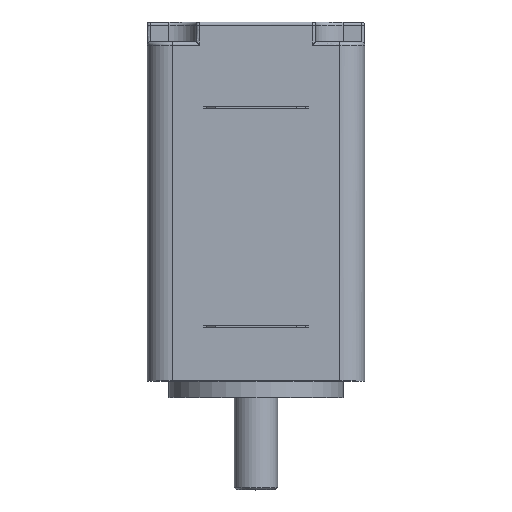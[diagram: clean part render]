
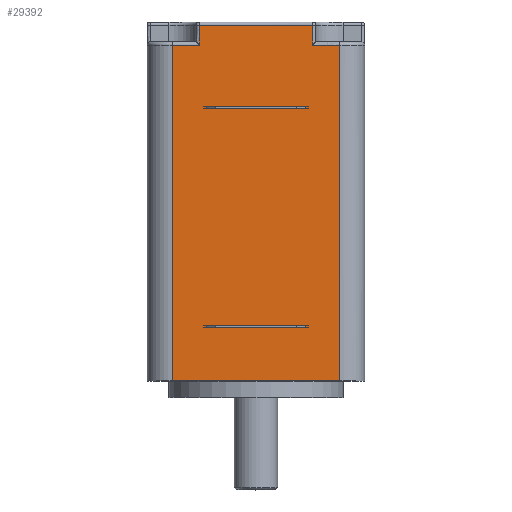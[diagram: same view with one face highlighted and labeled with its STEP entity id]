
A CAD part, top view. The second image highlights one B-rep face of the part: STEP entity #29392.
In plain terms, the highlighted planar face has unit normal (0, 0, 1).
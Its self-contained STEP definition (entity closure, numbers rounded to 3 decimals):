
#7312=CARTESIAN_POINT('',(4.583,0.675,10.));
#7313=VERTEX_POINT('',#7312);
#7321=CARTESIAN_POINT('',(-4.583,0.675,10.));
#7322=VERTEX_POINT('',#7321);
#7323=CARTESIAN_POINT('',(4.583,0.675,10.));
#7324=DIRECTION('',(-1.,0.,0.));
#7325=VECTOR('',#7324,9.165);
#7326=LINE('',#7323,#7325);
#7327=EDGE_CURVE('',#7313,#7322,#7326,.T.);
#8036=CARTESIAN_POINT('',(4.583,0.49,10.));
#8037=VERTEX_POINT('',#8036);
#8038=CARTESIAN_POINT('',(4.583,0.49,10.));
#8039=DIRECTION('',(0.,1.,0.));
#8040=VECTOR('',#8039,0.185);
#8041=LINE('',#8038,#8040);
#8042=EDGE_CURVE('',#8037,#7313,#8041,.T.);
#8085=CARTESIAN_POINT('',(-4.583,0.49,10.));
#8086=VERTEX_POINT('',#8085);
#8120=CARTESIAN_POINT('',(-4.583,0.675,10.));
#8121=DIRECTION('',(0.,-1.,0.));
#8122=VECTOR('',#8121,0.185);
#8123=LINE('',#8120,#8122);
#8124=EDGE_CURVE('',#7322,#8086,#8123,.T.);
#8476=CARTESIAN_POINT('',(-4.583,0.49,10.));
#8477=DIRECTION('',(1.,0.,0.));
#8478=VECTOR('',#8477,9.165);
#8479=LINE('',#8476,#8478);
#8480=EDGE_CURVE('',#8086,#8037,#8479,.T.);
#8911=CARTESIAN_POINT('',(7.7,-4.45,10.));
#8912=VERTEX_POINT('',#8911);
#8920=CARTESIAN_POINT('',(-7.7,-4.45,10.));
#8921=VERTEX_POINT('',#8920);
#8922=CARTESIAN_POINT('',(7.7,-4.45,10.));
#8923=DIRECTION('',(-1.,0.,0.));
#8924=VECTOR('',#8923,15.4);
#8925=LINE('',#8922,#8924);
#8926=EDGE_CURVE('',#8912,#8921,#8925,.T.);
#14715=CARTESIAN_POINT('',(7.7,26.42,10.));
#14716=VERTEX_POINT('',#14715);
#14723=CARTESIAN_POINT('',(7.7,26.42,10.));
#14724=DIRECTION('',(0.,-1.,0.));
#14725=VECTOR('',#14724,30.87);
#14726=LINE('',#14723,#14725);
#14727=EDGE_CURVE('',#14716,#8912,#14726,.T.);
#14738=CARTESIAN_POINT('',(-7.7,26.42,10.));
#14739=VERTEX_POINT('',#14738);
#14740=CARTESIAN_POINT('',(-7.7,-4.45,10.));
#14741=DIRECTION('',(0.,1.,0.));
#14742=VECTOR('',#14741,30.87);
#14743=LINE('',#14740,#14742);
#14744=EDGE_CURVE('',#8921,#14739,#14743,.T.);
#24664=CARTESIAN_POINT('',(4.583,20.81,10.));
#24665=VERTEX_POINT('',#24664);
#24673=CARTESIAN_POINT('',(-4.583,20.81,10.));
#24674=VERTEX_POINT('',#24673);
#24675=CARTESIAN_POINT('',(4.583,20.81,10.));
#24676=DIRECTION('',(-1.,0.,0.));
#24677=VECTOR('',#24676,9.165);
#24678=LINE('',#24675,#24677);
#24679=EDGE_CURVE('',#24665,#24674,#24678,.T.);
#24925=CARTESIAN_POINT('',(-4.583,20.625,10.));
#24926=VERTEX_POINT('',#24925);
#24934=CARTESIAN_POINT('',(4.583,20.625,10.));
#24935=VERTEX_POINT('',#24934);
#24936=CARTESIAN_POINT('',(-4.583,20.625,10.));
#24937=DIRECTION('',(1.,0.,0.));
#24938=VECTOR('',#24937,9.165);
#24939=LINE('',#24936,#24938);
#24940=EDGE_CURVE('',#24926,#24935,#24939,.T.);
#29318=CARTESIAN_POINT('',(4.583,20.625,10.));
#29319=DIRECTION('',(0.,1.,0.));
#29320=VECTOR('',#29319,0.185);
#29321=LINE('',#29318,#29320);
#29322=EDGE_CURVE('',#24935,#24665,#29321,.T.);
#29327=CARTESIAN_POINT('',(0.,11.9,10.));
#29328=DIRECTION('',(-1.,0.,0.));
#29329=DIRECTION('',(0.,0.,1.));
#29330=AXIS2_PLACEMENT_3D('',#29327,#29329,#29328);
#29331=PLANE('',#29330);
#29332=CARTESIAN_POINT('',(5.2,26.42,10.));
#29333=VERTEX_POINT('',#29332);
#29334=CARTESIAN_POINT('',(7.7,26.42,10.));
#29335=DIRECTION('',(-1.,0.,0.));
#29336=VECTOR('',#29335,2.5);
#29337=LINE('',#29334,#29336);
#29338=EDGE_CURVE('',#14716,#29333,#29337,.T.);
#29339=ORIENTED_EDGE('E2662',*,*,#29338,.T.);
#29340=CARTESIAN_POINT('',(5.2,28.25,10.));
#29341=VERTEX_POINT('',#29340);
#29342=CARTESIAN_POINT('',(5.2,26.42,10.));
#29343=DIRECTION('',(0.,1.,0.));
#29344=VECTOR('',#29343,1.83);
#29345=LINE('',#29342,#29344);
#29346=EDGE_CURVE('',#29333,#29341,#29345,.T.);
#29347=ORIENTED_EDGE('E2663',*,*,#29346,.T.);
#29348=CARTESIAN_POINT('',(-5.2,28.25,10.));
#29349=VERTEX_POINT('',#29348);
#29350=CARTESIAN_POINT('',(5.2,28.25,10.));
#29351=DIRECTION('',(-1.,0.,0.));
#29352=VECTOR('',#29351,10.4);
#29353=LINE('',#29350,#29352);
#29354=EDGE_CURVE('',#29341,#29349,#29353,.T.);
#29355=ORIENTED_EDGE('E2664',*,*,#29354,.T.);
#29356=CARTESIAN_POINT('',(-5.2,26.42,10.));
#29357=VERTEX_POINT('',#29356);
#29358=CARTESIAN_POINT('',(-5.2,28.25,10.));
#29359=DIRECTION('',(0.,-1.,0.));
#29360=VECTOR('',#29359,1.83);
#29361=LINE('',#29358,#29360);
#29362=EDGE_CURVE('',#29349,#29357,#29361,.T.);
#29363=ORIENTED_EDGE('E2665',*,*,#29362,.T.);
#29364=CARTESIAN_POINT('',(-5.2,26.42,10.));
#29365=DIRECTION('',(-1.,0.,0.));
#29366=VECTOR('',#29365,2.5);
#29367=LINE('',#29364,#29366);
#29368=EDGE_CURVE('',#29357,#14739,#29367,.T.);
#29369=ORIENTED_EDGE('E2666',*,*,#29368,.T.);
#29370=ORIENTED_EDGE('E2666',*,*,#14744,.F.);
#29371=ORIENTED_EDGE('E2666',*,*,#8926,.F.);
#29372=ORIENTED_EDGE('E2666',*,*,#14727,.F.);
#29373=EDGE_LOOP('',(#29339,#29347,#29355,#29363,#29369,#29370,#29371,#29372));
#29374=FACE_OUTER_BOUND('',#29373,.T.);
#29375=ORIENTED_EDGE('',*,*,#7327,.F.);
#29376=ORIENTED_EDGE('',*,*,#8042,.F.);
#29377=ORIENTED_EDGE('',*,*,#8480,.F.);
#29378=ORIENTED_EDGE('',*,*,#8124,.F.);
#29379=EDGE_LOOP('',(#29375,#29376,#29377,#29378));
#29380=FACE_BOUND('',#29379,.T.);
#29381=ORIENTED_EDGE('',*,*,#24940,.F.);
#29382=CARTESIAN_POINT('',(-4.583,20.625,10.));
#29383=DIRECTION('',(0.,1.,0.));
#29384=VECTOR('',#29383,0.185);
#29385=LINE('',#29382,#29384);
#29386=EDGE_CURVE('',#24926,#24674,#29385,.T.);
#29387=ORIENTED_EDGE('E2667',*,*,#29386,.T.);
#29388=ORIENTED_EDGE('E2667',*,*,#24679,.F.);
#29389=ORIENTED_EDGE('E2667',*,*,#29322,.F.);
#29390=EDGE_LOOP('',(#29381,#29387,#29388,#29389));
#29391=FACE_BOUND('',#29390,.T.);
#29392=ADVANCED_FACE('F753',(#29374,#29380,#29391),#29331,.T.);
